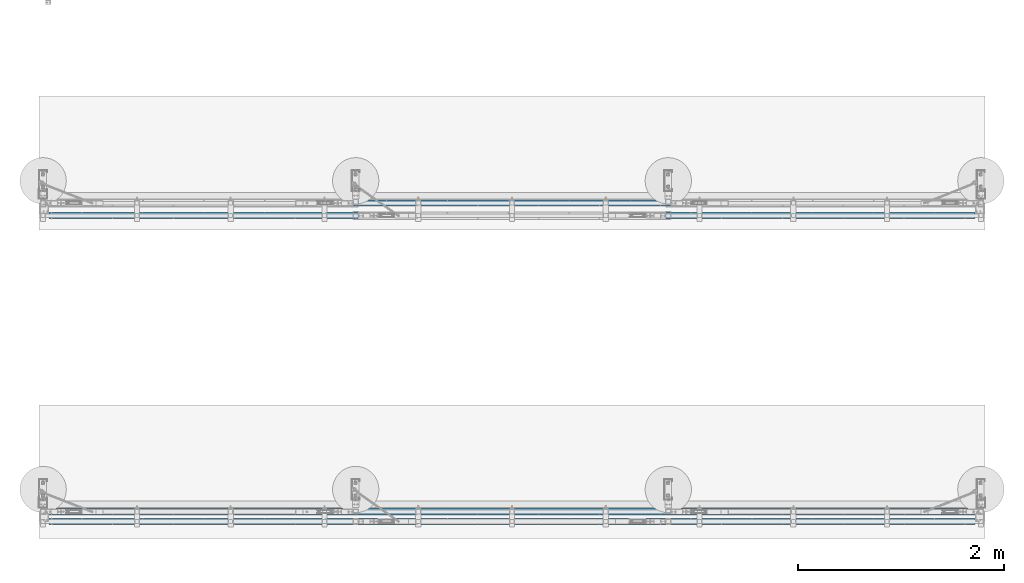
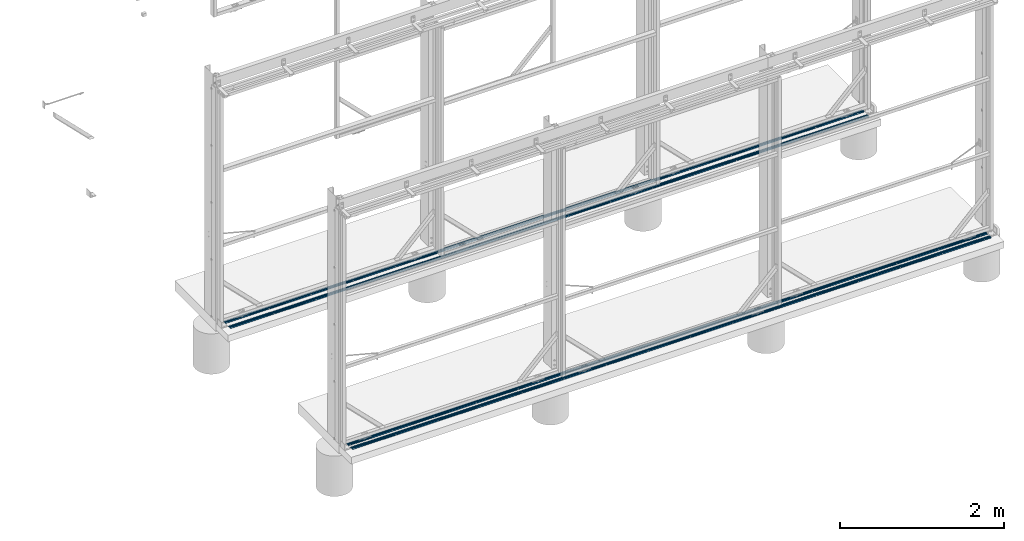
# One storey, part 78 of 91: 4 beams, 4 elements without a shape of their own.
"""IFC2X3 building model written with IfcOpenShell, lengths in millimetres."""

from ifc_helpers import new_model, si_unit, frame, origin_with_axes, place, context, subcontext, project, spatial, faceted_brep, material, type_object, element, aggregate, save


model = new_model("IFC2X3")

# Units and contexts
model_context = context("Model", 3, precision=1e-05, world=origin_with_axes())
body_context = subcontext(model_context, "Body", "Model", "MODEL_VIEW")
ifc_project = project(units=[si_unit("LENGTHUNIT", "METRE", prefix="MILLI"), si_unit("AREAUNIT", "SQUARE_METRE"), si_unit("VOLUMEUNIT", "CUBIC_METRE"), si_unit("MASSUNIT", "GRAM", prefix="KILO"), si_unit("TIMEUNIT", "SECOND"), si_unit("PLANEANGLEUNIT", "RADIAN"), si_unit("SOLIDANGLEUNIT", "STERADIAN"), si_unit("THERMODYNAMICTEMPERATUREUNIT", "DEGREE_CELSIUS"), si_unit("LUMINOUSINTENSITYUNIT", "LUMEN")], contexts=[model_context])

# Site, building, storey
site_placement = place(None, origin_with_axes())
site = spatial("IfcSite", under=ifc_project, at=site_placement, Name="Undefined", CompositionType="ELEMENT")
building_placement = place(site_placement, origin_with_axes())
building = spatial("IfcBuilding", under=site, at=building_placement, Name="Undefined", CompositionType="ELEMENT")
storey_placement = place(building_placement, origin_with_axes())
storey = spatial("IfcBuildingStorey", under=building, at=storey_placement, Name="Undefined", CompositionType="ELEMENT", Elevation=0.0)

# Assembly, beam
assembly_1_placement = place(storey_placement, origin_with_axes())
assembly_1 = element("IfcElementAssembly", 1, at=assembly_1_placement, inside=storey, Name="DOOR TRACK", AssemblyPlace="NOTDEFINED", PredefinedType="RIGID_FRAME")
ifc_material = material(Name="STEEL/250")
beam_type = type_object("IfcBeamType", Name="CFCHS20*3", PredefinedType="NOTDEFINED")
beam_1_placement = place(assembly_1_placement, frame((-116738.84, 87712.15, -54.0), z_axis=(0.0, -1.0, 0.0), x_axis=(1.0, 0.0, 0.0)))
beam_1 = element("IfcBeam", 2, at=beam_1_placement, type_object=beam_type, material=ifc_material, Name="DOOR TRACK", ObjectType="CFCHS20*3", context=body_context, shape_type="Brep", body=[
    faceted_brep([(0.0, 7.0, 0.0), (0.0, 4.94974746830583, -4.94974746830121), (8998.5, 4.94974746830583, -4.94974746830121), (8998.5, 7.0, 0.0), (0.0, 4.94974746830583, 4.94974746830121), (8998.5, 4.94974746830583, 4.94974746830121), (0.0, 0.0, 6.998046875), (8998.5, 0.0, 6.998046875), (0.0, -3.0, 6.998046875), (8998.5, -3.0, 6.998046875), (8998.5, -3.0, 29.998046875), (0.0, -3.0, 29.998046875), (0.0, 0.0, 29.998046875), (8998.5, 0.0, 29.998046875), (8998.5, 0.0, 10.0), (0.0, 0.0, 10.0), (8998.5, 7.07106781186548, 7.07106781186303), (0.0, 7.07106781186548, 7.07106781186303), (0.0, 10.0, 0.0), (8998.5, 10.0, 0.0), (0.0, 7.07106781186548, -7.07106781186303), (8998.5, 7.07106781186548, -7.07106781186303), (0.0, 0.0, -10.0), (8998.5, 0.0, -10.0), (8998.5, 0.0, -7.0), (0.0, 0.0, -7.0), (8998.5, -3.0, -7.0), (8998.5, -3.0, -30.0), (8998.5, 0.0, -30.0), (0.0, -3.0, -30.0), (0.0, -3.0, -7.0), (0.0, 0.0, -30.0)], [[[0, 1, 2, 3]], [[4, 0, 3, 5]], [[6, 4, 5, 7]], [[8, 6, 7, 9]], [[10, 11, 8, 9]], [[12, 11, 10, 13]], [[12, 13, 14, 15]], [[14, 16, 17, 15]], [[18, 17, 16, 19]], [[20, 18, 19, 21]], [[22, 20, 21, 23]], [[24, 2, 1, 25]], [[26, 27, 28, 23, 21, 19, 16, 14, 13, 10, 9, 7, 5, 3, 2, 24]], [[29, 27, 26, 30]], [[29, 31, 28, 27]], [[30, 26, 24, 25]], [[1, 0, 4, 6, 8, 11, 12, 15, 17, 18, 20, 22, 31, 29, 30, 25]], [[28, 31, 22, 23]]]),
])
aggregate(assembly_1, [beam_1])

assembly_2_placement = place(storey_placement, origin_with_axes())
assembly_2 = element("IfcElementAssembly", 3, at=assembly_2_placement, inside=storey, Name="DOOR TRACK", AssemblyPlace="NOTDEFINED", PredefinedType="RIGID_FRAME")
beam_2_placement = place(assembly_2_placement, frame((-116738.84, 87590.15, -54.0), z_axis=(0.0, -1.0, 0.0), x_axis=(1.0, 0.0, 0.0)))
beam_2 = element("IfcBeam", 4, at=beam_2_placement, type_object=beam_type, material=ifc_material, Name="DOOR TRACK", ObjectType="CFCHS20*3", context=body_context, shape_type="Brep", body=[
    faceted_brep([(0.0, 7.0, 0.0), (0.0, 4.94974746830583, -4.94974746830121), (8998.5, 4.94974746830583, -4.94974746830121), (8998.5, 7.0, 0.0), (0.0, 4.94974746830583, 4.94974746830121), (8998.5, 4.94974746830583, 4.94974746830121), (0.0, 0.0, 6.998046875), (8998.5, 0.0, 6.998046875), (0.0, -3.0, 6.998046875), (8998.5, -3.0, 6.998046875), (8998.5, -3.0, 29.998046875), (0.0, -3.0, 29.998046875), (0.0, 0.0, 29.998046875), (8998.5, 0.0, 29.998046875), (8998.5, 0.0, 10.0), (0.0, 0.0, 10.0), (8998.5, 7.07106781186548, 7.07106781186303), (0.0, 7.07106781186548, 7.07106781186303), (0.0, 10.0, 0.0), (8998.5, 10.0, 0.0), (0.0, 7.07106781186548, -7.07106781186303), (8998.5, 7.07106781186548, -7.07106781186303), (0.0, 0.0, -10.0), (8998.5, 0.0, -10.0), (8998.5, 0.0, -7.0), (0.0, 0.0, -7.0), (8998.5, -3.0, -7.0), (8998.5, -3.0, -30.0), (8998.5, 0.0, -30.0), (0.0, -3.0, -30.0), (0.0, -3.0, -7.0), (0.0, 0.0, -30.0)], [[[0, 1, 2, 3]], [[4, 0, 3, 5]], [[6, 4, 5, 7]], [[8, 6, 7, 9]], [[10, 11, 8, 9]], [[12, 11, 10, 13]], [[12, 13, 14, 15]], [[14, 16, 17, 15]], [[18, 17, 16, 19]], [[20, 18, 19, 21]], [[22, 20, 21, 23]], [[24, 2, 1, 25]], [[26, 27, 28, 23, 21, 19, 16, 14, 13, 10, 9, 7, 5, 3, 2, 24]], [[29, 27, 26, 30]], [[29, 31, 28, 27]], [[30, 26, 24, 25]], [[1, 0, 4, 6, 8, 11, 12, 15, 17, 18, 20, 22, 31, 29, 30, 25]], [[28, 31, 22, 23]]]),
])
aggregate(assembly_2, [beam_2])

assembly_3_placement = place(storey_placement, origin_with_axes())
assembly_3 = element("IfcElementAssembly", 5, at=assembly_3_placement, inside=storey, Name="DOOR TRACK", AssemblyPlace="NOTDEFINED", PredefinedType="RIGID_FRAME")
beam_3_placement = place(assembly_3_placement, frame((-116738.84, 84712.15, -54.0), z_axis=(0.0, -1.0, 0.0), x_axis=(1.0, 0.0, 0.0)))
beam_3 = element("IfcBeam", 6, at=beam_3_placement, type_object=beam_type, material=ifc_material, Name="DOOR TRACK", ObjectType="CFCHS20*3", context=body_context, shape_type="Brep", body=[
    faceted_brep([(0.0, 7.0, 0.0), (0.0, 4.94974746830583, -4.94974746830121), (8998.5, 4.94974746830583, -4.94974746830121), (8998.5, 7.0, 0.0), (0.0, 4.94974746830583, 4.94974746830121), (8998.5, 4.94974746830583, 4.94974746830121), (0.0, 0.0, 6.998046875), (8998.5, 0.0, 6.998046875), (0.0, -3.0, 6.998046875), (8998.5, -3.0, 6.998046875), (8998.5, -3.0, 29.998046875), (0.0, -3.0, 29.998046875), (0.0, 0.0, 29.998046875), (8998.5, 0.0, 29.998046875), (8998.5, 0.0, 10.0), (0.0, 0.0, 10.0), (8998.5, 7.07106781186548, 7.07106781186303), (0.0, 7.07106781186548, 7.07106781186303), (0.0, 10.0, 0.0), (8998.5, 10.0, 0.0), (0.0, 7.07106781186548, -7.07106781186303), (8998.5, 7.07106781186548, -7.07106781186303), (0.0, 0.0, -10.0), (8998.5, 0.0, -10.0), (8998.5, 0.0, -7.0), (0.0, 0.0, -7.0), (8998.5, -3.0, -7.0), (8998.5, -3.0, -30.0), (8998.5, 0.0, -30.0), (0.0, -3.0, -30.0), (0.0, -3.0, -7.0), (0.0, 0.0, -30.0)], [[[0, 1, 2, 3]], [[4, 0, 3, 5]], [[6, 4, 5, 7]], [[8, 6, 7, 9]], [[10, 11, 8, 9]], [[12, 11, 10, 13]], [[12, 13, 14, 15]], [[14, 16, 17, 15]], [[18, 17, 16, 19]], [[20, 18, 19, 21]], [[22, 20, 21, 23]], [[24, 2, 1, 25]], [[26, 27, 28, 23, 21, 19, 16, 14, 13, 10, 9, 7, 5, 3, 2, 24]], [[29, 27, 26, 30]], [[29, 31, 28, 27]], [[30, 26, 24, 25]], [[1, 0, 4, 6, 8, 11, 12, 15, 17, 18, 20, 22, 31, 29, 30, 25]], [[28, 31, 22, 23]]]),
])
aggregate(assembly_3, [beam_3])

assembly_4_placement = place(storey_placement, origin_with_axes())
assembly_4 = element("IfcElementAssembly", 7, at=assembly_4_placement, inside=storey, Name="DOOR TRACK", AssemblyPlace="NOTDEFINED", PredefinedType="RIGID_FRAME")
beam_4_placement = place(assembly_4_placement, frame((-116738.84, 84618.15, -54.0), z_axis=(0.0, -1.0, 0.0), x_axis=(1.0, 0.0, 0.0)))
beam_4 = element("IfcBeam", 8, at=beam_4_placement, type_object=beam_type, material=ifc_material, Name="DOOR TRACK", ObjectType="CFCHS20*3", context=body_context, shape_type="Brep", body=[
    faceted_brep([(0.0, 7.0, 0.0), (0.0, 4.94974746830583, -4.94974746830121), (8998.5, 4.94974746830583, -4.94974746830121), (8998.5, 7.0, 0.0), (0.0, 4.94974746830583, 4.94974746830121), (8998.5, 4.94974746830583, 4.94974746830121), (0.0, 0.0, 6.998046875), (8998.5, 0.0, 6.998046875), (0.0, -3.0, 6.998046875), (8998.5, -3.0, 6.998046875), (8998.5, -3.0, 29.998046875), (0.0, -3.0, 29.998046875), (0.0, 0.0, 29.998046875), (8998.5, 0.0, 29.998046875), (8998.5, 0.0, 10.0), (0.0, 0.0, 10.0), (8998.5, 7.07106781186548, 7.07106781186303), (0.0, 7.07106781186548, 7.07106781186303), (0.0, 10.0, 0.0), (8998.5, 10.0, 0.0), (0.0, 7.07106781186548, -7.07106781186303), (8998.5, 7.07106781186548, -7.07106781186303), (0.0, 0.0, -10.0), (8998.5, 0.0, -10.0), (8998.5, 0.0, -7.0), (0.0, 0.0, -7.0), (8998.5, -3.0, -7.0), (8998.5, -3.0, -30.0), (8998.5, 0.0, -30.0), (0.0, -3.0, -30.0), (0.0, -3.0, -7.0), (0.0, 0.0, -30.0)], [[[0, 1, 2, 3]], [[4, 0, 3, 5]], [[6, 4, 5, 7]], [[8, 6, 7, 9]], [[10, 11, 8, 9]], [[12, 11, 10, 13]], [[12, 13, 14, 15]], [[14, 16, 17, 15]], [[18, 17, 16, 19]], [[20, 18, 19, 21]], [[22, 20, 21, 23]], [[24, 2, 1, 25]], [[26, 27, 28, 23, 21, 19, 16, 14, 13, 10, 9, 7, 5, 3, 2, 24]], [[29, 27, 26, 30]], [[29, 31, 28, 27]], [[30, 26, 24, 25]], [[1, 0, 4, 6, 8, 11, 12, 15, 17, 18, 20, 22, 31, 29, 30, 25]], [[28, 31, 22, 23]]]),
])
aggregate(assembly_4, [beam_4])

save(model, "model.ifc")
